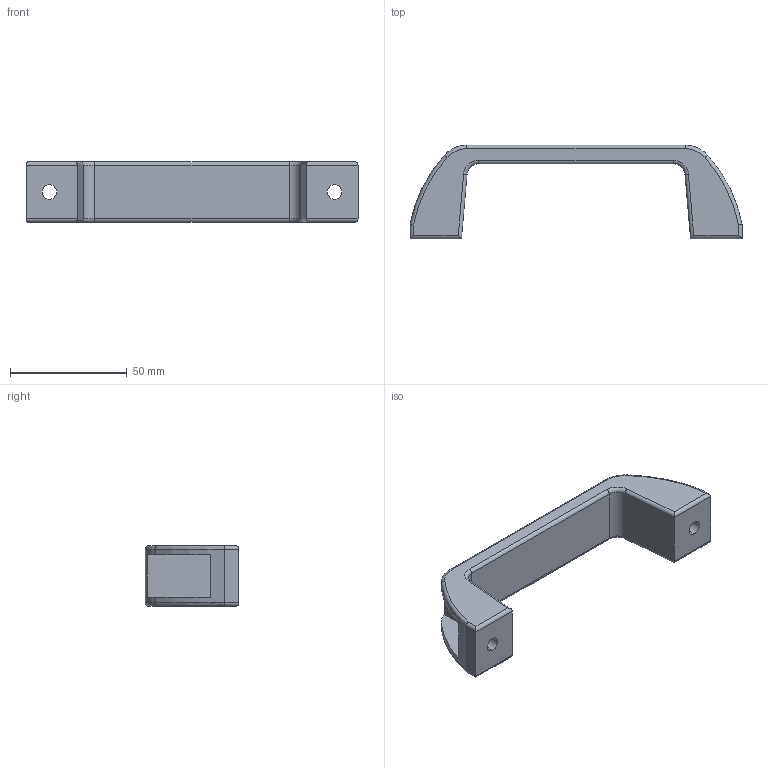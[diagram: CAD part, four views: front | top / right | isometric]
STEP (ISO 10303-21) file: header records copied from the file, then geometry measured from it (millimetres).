
FILE_DESCRIPTION (( 'STEP AP203' ), '1' );
FILE_NAME ('4.540.001.STEP', '2022-05-30T05:22:41', ( '' ), ( '' ), 'SwSTEP 2.0', 'SolidWorks 2021', '' );
FILE_SCHEMA (( 'CONFIG_CONTROL_DESIGN' ));
Length unit declared in the file: millimetre
Products named in the file (1): 4.540.001
Bounding box: 142 x 40 x 26 mm (x, y, z)
Volume: 42666.1 mm3; surface area: 16216.6 mm2
Topology: 1 solids, 1 shells, 70 faces, 170 edges, 104 vertices
Faces by surface type: plane 32, cylinder 26, torus 12
Entity records: 2155 total; most frequent: CARTESIAN_POINT 421, DIRECTION 356, ORIENTED_EDGE 340, EDGE_CURVE 170, AXIS2_PLACEMENT_3D 127, VERTEX_POINT 104, LINE 102, VECTOR 102
